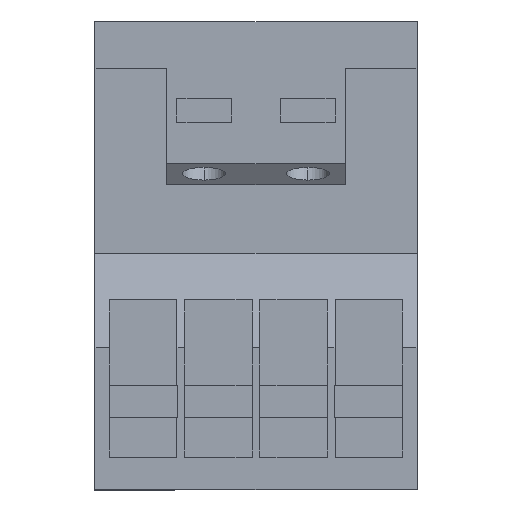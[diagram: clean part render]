
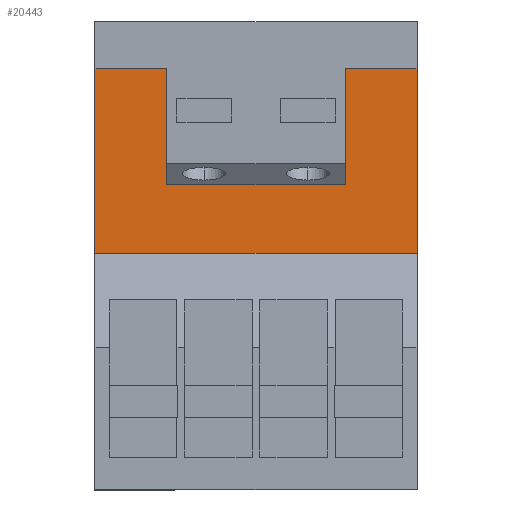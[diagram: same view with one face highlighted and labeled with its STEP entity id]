
A CAD part, top view. The second image highlights one B-rep face of the part: STEP entity #20443.
In plain terms, the highlighted planar face has unit normal (0, 0, 1).
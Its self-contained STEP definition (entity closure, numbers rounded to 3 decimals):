
#578 = VERTEX_POINT ( 'NONE', #2604 ) ;
#782 = CARTESIAN_POINT ( 'NONE',  ( 110.552, -13.224, 38.816 ) ) ;
#1168 = LINE ( 'NONE', #14556, #11946 ) ;
#1223 = VECTOR ( 'NONE', #18011, 1000. ) ;
#1542 = VECTOR ( 'NONE', #26906, 1000. ) ;
#2458 = EDGE_CURVE ( 'NONE', #20673, #13942, #20403, .T. ) ;
#2498 = EDGE_LOOP ( 'NONE', ( #20603, #26674, #11297, #18545, #27687, #21796, #26057, #8982 ) ) ;
#2604 = CARTESIAN_POINT ( 'NONE',  ( 135.552, 2.976, 38.816 ) ) ;
#2936 = LINE ( 'NONE', #9149, #13751 ) ;
#3295 = CARTESIAN_POINT ( 'NONE',  ( 145.552, 2.976, 38.816 ) ) ;
#3381 = CARTESIAN_POINT ( 'NONE',  ( 100.552, -22.824, 38.816 ) ) ;
#3484 = CARTESIAN_POINT ( 'NONE',  ( 145.552, 2.976, 38.816 ) ) ;
#4899 = LINE ( 'NONE', #782, #1223 ) ;
#5224 = VECTOR ( 'NONE', #8097, 1000. ) ;
#5225 = CARTESIAN_POINT ( 'NONE',  ( 110.552, -13.224, 38.816 ) ) ;
#5645 = CARTESIAN_POINT ( 'NONE',  ( 145.552, -13.224, 38.816 ) ) ;
#7782 = EDGE_CURVE ( 'NONE', #20765, #20673, #4899, .T. ) ;
#7931 = LINE ( 'NONE', #3295, #1542 ) ;
#8036 = EDGE_CURVE ( 'NONE', #8186, #20765, #10976, .T. ) ;
#8097 = DIRECTION ( 'NONE',  ( -1., 0., 0. ) ) ;
#8186 = VERTEX_POINT ( 'NONE', #10833 ) ;
#8461 = PLANE ( 'NONE',  #19608 ) ;
#8982 = ORIENTED_EDGE ( 'NONE', *, *, #8036, .T. ) ;
#9149 = CARTESIAN_POINT ( 'NONE',  ( 135.552, -13.224, 38.816 ) ) ;
#9253 = EDGE_CURVE ( 'NONE', #13942, #9634, #21724, .T. ) ;
#9634 = VERTEX_POINT ( 'NONE', #3381 ) ;
#10453 = CARTESIAN_POINT ( 'NONE',  ( 100.552, 2.976, 38.816 ) ) ;
#10636 = CARTESIAN_POINT ( 'NONE',  ( 145.552, -13.224, 38.816 ) ) ;
#10833 = CARTESIAN_POINT ( 'NONE',  ( 135.552, -13.224, 38.816 ) ) ;
#10976 = LINE ( 'NONE', #23168, #5224 ) ;
#11297 = ORIENTED_EDGE ( 'NONE', *, *, #9253, .T. ) ;
#11322 = DIRECTION ( 'NONE',  ( 0., -1., 0. ) ) ;
#11946 = VECTOR ( 'NONE', #16749, 1000. ) ;
#12375 = EDGE_CURVE ( 'NONE', #17102, #12627, #14538, .T. ) ;
#12627 = VERTEX_POINT ( 'NONE', #25471 ) ;
#13751 = VECTOR ( 'NONE', #11322, 1000. ) ;
#13942 = VERTEX_POINT ( 'NONE', #10453 ) ;
#14538 = LINE ( 'NONE', #5645, #20251 ) ;
#14556 = CARTESIAN_POINT ( 'NONE',  ( 145.552, -22.824, 38.816 ) ) ;
#14776 = EDGE_CURVE ( 'NONE', #578, #8186, #2936, .T. ) ;
#14926 = CARTESIAN_POINT ( 'NONE',  ( 100.552, -10.32, 38.816 ) ) ;
#15411 = CARTESIAN_POINT ( 'NONE',  ( 145.552, -22.824, 38.816 ) ) ;
#15627 = CARTESIAN_POINT ( 'NONE',  ( 110.552, 2.976, 38.816 ) ) ;
#15830 = EDGE_CURVE ( 'NONE', #12627, #578, #7931, .T. ) ;
#16749 = DIRECTION ( 'NONE',  ( 1., 0., 0. ) ) ;
#17102 = VERTEX_POINT ( 'NONE', #15411 ) ;
#18011 = DIRECTION ( 'NONE',  ( 0., 1., 0. ) ) ;
#18545 = ORIENTED_EDGE ( 'NONE', *, *, #26186, .T. ) ;
#18583 = DIRECTION ( 'NONE',  ( -1., 0., 0. ) ) ;
#19608 = AXIS2_PLACEMENT_3D ( 'NONE', #10636, #25596, #25673 ) ;
#20251 = VECTOR ( 'NONE', #24879, 1000. ) ;
#20403 = LINE ( 'NONE', #3484, #24788 ) ;
#20443 = ADVANCED_FACE ( 'NONE', ( #26829 ), #8461, .T. ) ;
#20603 = ORIENTED_EDGE ( 'NONE', *, *, #7782, .T. ) ;
#20673 = VERTEX_POINT ( 'NONE', #15627 ) ;
#20765 = VERTEX_POINT ( 'NONE', #5225 ) ;
#21724 = LINE ( 'NONE', #14926, #23729 ) ;
#21796 = ORIENTED_EDGE ( 'NONE', *, *, #15830, .T. ) ;
#23168 = CARTESIAN_POINT ( 'NONE',  ( 145.552, -13.224, 38.816 ) ) ;
#23729 = VECTOR ( 'NONE', #27761, 1000. ) ;
#24788 = VECTOR ( 'NONE', #18583, 1000. ) ;
#24879 = DIRECTION ( 'NONE',  ( 0., 1., 0. ) ) ;
#25471 = CARTESIAN_POINT ( 'NONE',  ( 145.552, 2.976, 38.816 ) ) ;
#25596 = DIRECTION ( 'NONE',  ( 0., 0., 1. ) ) ;
#25673 = DIRECTION ( 'NONE',  ( 0., -1., 0. ) ) ;
#26057 = ORIENTED_EDGE ( 'NONE', *, *, #14776, .T. ) ;
#26186 = EDGE_CURVE ( 'NONE', #9634, #17102, #1168, .T. ) ;
#26674 = ORIENTED_EDGE ( 'NONE', *, *, #2458, .T. ) ;
#26829 = FACE_OUTER_BOUND ( 'NONE', #2498, .T. ) ;
#26906 = DIRECTION ( 'NONE',  ( -1., 0., 0. ) ) ;
#27687 = ORIENTED_EDGE ( 'NONE', *, *, #12375, .T. ) ;
#27761 = DIRECTION ( 'NONE',  ( 0., -1., 0. ) ) ;
